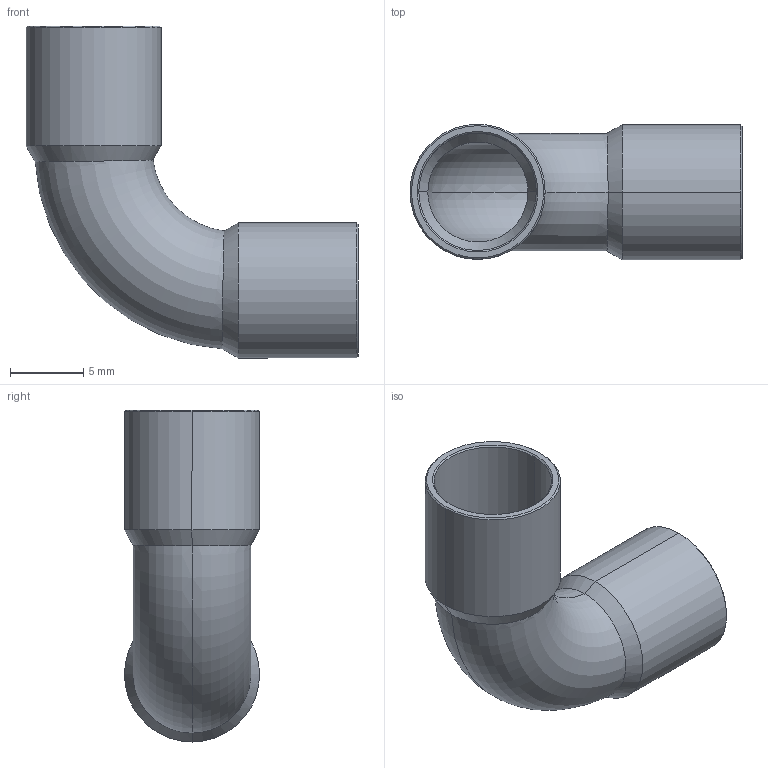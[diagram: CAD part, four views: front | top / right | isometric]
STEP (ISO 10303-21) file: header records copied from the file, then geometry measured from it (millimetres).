
FILE_DESCRIPTION((''),'2;1');
FILE_NAME('D:\5002\15002a8.stp','2005-10-04T10:29:31',('Kris'),(''),'Autodesk Inventor 8','Autodesk Inventor 8','');
FILE_SCHEMA(('AUTOMOTIVE_DESIGN { 1 0 10303 214 1 1 1 1 }'));
Length unit declared in the file: millimetre
Products named in the file (1): 15002a8
Bounding box: 22.6 x 9.2 x 22.6 mm (x, y, z)
Volume: 487.8 mm3; surface area: 1654 mm2
Topology: 1 solids, 1 shells, 30 faces, 60 edges, 32 vertices
Faces by surface type: cone 12, bspline 9, torus 4, cylinder 4, plane 1
Entity records: 1027 total; most frequent: CARTESIAN_POINT 414, DIRECTION 124, ORIENTED_EDGE 120, EDGE_CURVE 60, AXIS2_PLACEMENT_3D 50, VERTEX_POINT 32, EDGE_LOOP 32, FACE_OUTER_BOUND 30
